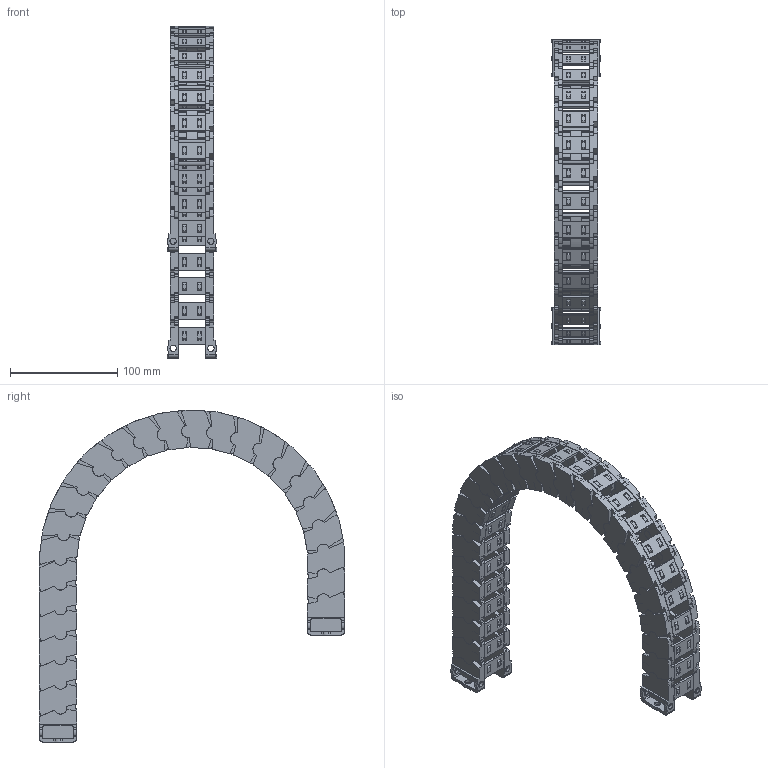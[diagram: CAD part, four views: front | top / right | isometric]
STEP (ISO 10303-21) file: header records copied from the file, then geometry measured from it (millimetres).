
FILE_DESCRIPTION((''),'2;1');
FILE_NAME('JY-25X25-R125_ASM','2022-05-07T10:51:03',('admin'),(''),'CREO PARAMETRIC BY PTC INC, 2021164','CREO PARAMETRIC BY PTC INC, 2021164','');
FILE_SCHEMA(('CONFIG_CONTROL_DESIGN','GEOMETRIC_VALIDATION_PROPERTIES_MIM'));
Length unit declared in the file: millimetre
Products named in the file (11): 25XL-L; 25-35XL-YP; 25XL-R; ASM0001_ASM; 25-LTT-A-L; 25-LTT-A-R; 25XL-LTT-A_ASM; 25-LTT-B-L; 25-LTT-B-R; 25XL-LTT-B_ASM; JY-25X25-R125_ASM
Assembly tree (38 placements, depth 3):
  JY-25X25-R125_ASM
    ASM0001_ASM  x24
      25XL-L
      25-35XL-YP
      25XL-R
    25XL-LTT-A_ASM
      25-LTT-A-L
      25-35XL-YP  x2
      25-LTT-A-R
    25XL-LTT-B_ASM
      25-LTT-B-L
      25-35XL-YP  x2
      25-LTT-B-R
Bounding box: 46.17 x 284.61 x 309.36 mm (x, y, z)
Volume: 353077.5 mm3; surface area: 268123.4 mm2
Topology: 104 solids, 128 shells, 5398 faces, 16134 edges, 10918 vertices
Faces by surface type: plane 3982, cylinder 1368, cone 48
Entity records: 24131 total; most frequent: CARTESIAN_POINT 3132, DIRECTION 3027, ORIENTED_EDGE 2962, EDGE_CURVE 1483, PRESENTATION_STYLE_ASSIGNMENT 1413, STYLED_ITEM 1381, VECTOR 1053, LINE 1053
